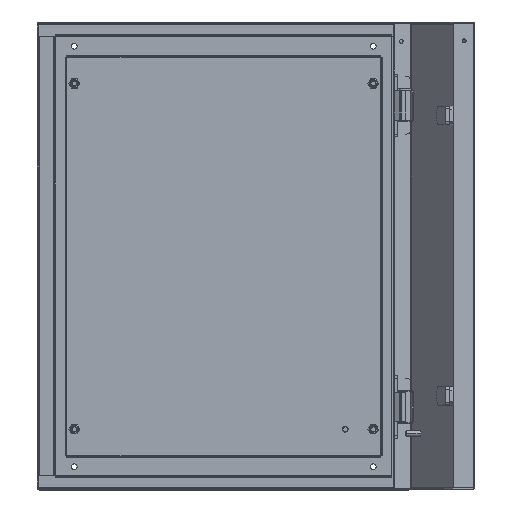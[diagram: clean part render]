
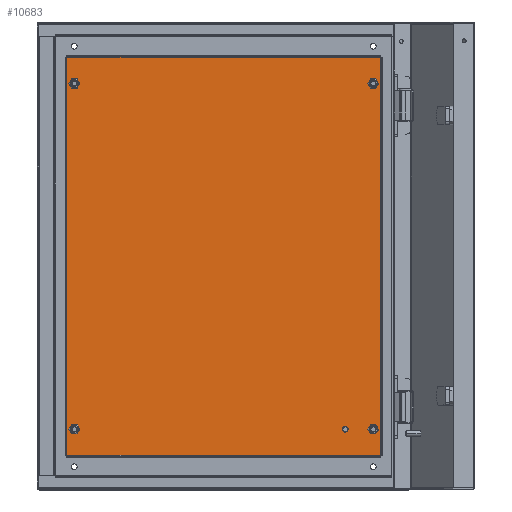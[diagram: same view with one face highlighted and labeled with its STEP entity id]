
A CAD part, top view. The second image highlights one B-rep face of the part: STEP entity #10683.
In plain terms, the highlighted planar face has unit normal (0, 0, 1).
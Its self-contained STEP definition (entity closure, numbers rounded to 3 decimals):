
#120 = CARTESIAN_POINT ( 'NONE',  ( 1.937, 428.063, 0. ) ) ;
#152 = DIRECTION ( 'NONE',  ( 0., 0., 1. ) ) ;
#196 = VERTEX_POINT ( 'NONE', #1925 ) ;
#285 = VECTOR ( 'NONE', #6019, 1000. ) ;
#574 = CIRCLE ( 'NONE', #2295, 3. ) ;
#814 = CIRCLE ( 'NONE', #6008, 4. ) ;
#896 = DIRECTION ( 'NONE',  ( 0., 0., 1. ) ) ;
#897 = DIRECTION ( 'NONE',  ( 0., 0., 1. ) ) ;
#957 = PLANE ( 'NONE',  #8624 ) ;
#1027 = VERTEX_POINT ( 'NONE', #4752 ) ;
#1081 = DIRECTION ( 'NONE',  ( 0., 0., -1. ) ) ;
#1171 = CARTESIAN_POINT ( 'NONE',  ( 10., 30., 0. ) ) ;
#1234 = CARTESIAN_POINT ( 'NONE',  ( 6., 400., 0. ) ) ;
#1259 = VERTEX_POINT ( 'NONE', #3445 ) ;
#1307 = AXIS2_PLACEMENT_3D ( 'NONE', #1171, #3029, #9080 ) ;
#1429 = ORIENTED_EDGE ( 'NONE', *, *, #12583, .T. ) ;
#1440 = DIRECTION ( 'NONE',  ( 0., 0., 1. ) ) ;
#1559 = ORIENTED_EDGE ( 'NONE', *, *, #11010, .T. ) ;
#1586 = VECTOR ( 'NONE', #11579, 1000. ) ;
#1604 = ORIENTED_EDGE ( 'NONE', *, *, #2319, .F. ) ;
#1908 = DIRECTION ( 'NONE',  ( 1., 0., 0. ) ) ;
#1925 = CARTESIAN_POINT ( 'NONE',  ( 334., 400., 0. ) ) ;
#1952 = ORIENTED_EDGE ( 'NONE', *, *, #8829, .F. ) ;
#1981 = DIRECTION ( 'NONE',  ( -1., 0., 0. ) ) ;
#2063 = FACE_BOUND ( 'NONE', #5309, .T. ) ;
#2084 = EDGE_CURVE ( 'NONE', #196, #4944, #8268, .T. ) ;
#2295 = AXIS2_PLACEMENT_3D ( 'NONE', #10002, #4198, #6091 ) ;
#2319 = EDGE_CURVE ( 'NONE', #5954, #8873, #814, .T. ) ;
#2412 = CARTESIAN_POINT ( 'NONE',  ( 14., 30., 0. ) ) ;
#2455 = EDGE_LOOP ( 'NONE', ( #9151, #1559, #6480, #1429 ) ) ;
#2652 = EDGE_CURVE ( 'NONE', #7992, #12677, #12765, .T. ) ;
#2903 = LINE ( 'NONE', #2977, #285 ) ;
#2946 = DIRECTION ( 'NONE',  ( -1., 0., 0. ) ) ;
#2977 = CARTESIAN_POINT ( 'NONE',  ( 1.937, 428.093, 0. ) ) ;
#3029 = DIRECTION ( 'NONE',  ( 0., 0., 1. ) ) ;
#3106 = EDGE_CURVE ( 'NONE', #4944, #196, #8387, .T. ) ;
#3151 = LINE ( 'NONE', #5983, #6709 ) ;
#3289 = CARTESIAN_POINT ( 'NONE',  ( 338.063, 1.907, 0. ) ) ;
#3445 = CARTESIAN_POINT ( 'NONE',  ( 303., 30., 0. ) ) ;
#3476 = CIRCLE ( 'NONE', #6846, 3. ) ;
#3549 = CIRCLE ( 'NONE', #1307, 4. ) ;
#3598 = ORIENTED_EDGE ( 'NONE', *, *, #2084, .F. ) ;
#3934 = DIRECTION ( 'NONE',  ( 0., 0., 1. ) ) ;
#4122 = FACE_OUTER_BOUND ( 'NONE', #2455, .T. ) ;
#4198 = DIRECTION ( 'NONE',  ( 0., 0., 1. ) ) ;
#4282 = VERTEX_POINT ( 'NONE', #10823 ) ;
#4371 = DIRECTION ( 'NONE',  ( 0., 0., 1. ) ) ;
#4387 = VECTOR ( 'NONE', #8259, 1000. ) ;
#4406 = CIRCLE ( 'NONE', #8330, 4. ) ;
#4434 = ORIENTED_EDGE ( 'NONE', *, *, #7838, .F. ) ;
#4623 = EDGE_LOOP ( 'NONE', ( #11870, #6747 ) ) ;
#4633 = CARTESIAN_POINT ( 'NONE',  ( 297., 30., 0. ) ) ;
#4752 = CARTESIAN_POINT ( 'NONE',  ( 1.937, 1.937, 0. ) ) ;
#4905 = EDGE_LOOP ( 'NONE', ( #1604, #8008 ) ) ;
#4944 = VERTEX_POINT ( 'NONE', #10033 ) ;
#5017 = DIRECTION ( 'NONE',  ( -1., 0., 0. ) ) ;
#5037 = CIRCLE ( 'NONE', #9711, 4. ) ;
#5252 = CARTESIAN_POINT ( 'NONE',  ( 10., 400., 0. ) ) ;
#5309 = EDGE_LOOP ( 'NONE', ( #1952, #7397 ) ) ;
#5315 = FACE_BOUND ( 'NONE', #5948, .T. ) ;
#5370 = CARTESIAN_POINT ( 'NONE',  ( 330., 30., 0. ) ) ;
#5615 = LINE ( 'NONE', #7331, #1586 ) ;
#5677 = DIRECTION ( 'NONE',  ( -1., 0., 0. ) ) ;
#5686 = DIRECTION ( 'NONE',  ( -1., 0., 0. ) ) ;
#5846 = VERTEX_POINT ( 'NONE', #2412 ) ;
#5930 = CARTESIAN_POINT ( 'NONE',  ( 330., 400., 0. ) ) ;
#5948 = EDGE_LOOP ( 'NONE', ( #3598, #7728 ) ) ;
#5954 = VERTEX_POINT ( 'NONE', #6802 ) ;
#5983 = CARTESIAN_POINT ( 'NONE',  ( 338.093, 428.063, 0. ) ) ;
#6008 = AXIS2_PLACEMENT_3D ( 'NONE', #5252, #1440, #11239 ) ;
#6019 = DIRECTION ( 'NONE',  ( 0., -1., 0. ) ) ;
#6091 = DIRECTION ( 'NONE',  ( -1., 0., 0. ) ) ;
#6232 = AXIS2_PLACEMENT_3D ( 'NONE', #5370, #8322, #7281 ) ;
#6356 = VERTEX_POINT ( 'NONE', #4633 ) ;
#6480 = ORIENTED_EDGE ( 'NONE', *, *, #2652, .T. ) ;
#6489 = EDGE_LOOP ( 'NONE', ( #4434, #9613 ) ) ;
#6565 = FACE_BOUND ( 'NONE', #6489, .T. ) ;
#6709 = VECTOR ( 'NONE', #2946, 1000. ) ;
#6747 = ORIENTED_EDGE ( 'NONE', *, *, #9942, .F. ) ;
#6802 = CARTESIAN_POINT ( 'NONE',  ( 14., 400., 0. ) ) ;
#6846 = AXIS2_PLACEMENT_3D ( 'NONE', #11609, #8662, #5677 ) ;
#7074 = DIRECTION ( 'NONE',  ( -1., 0., 0. ) ) ;
#7281 = DIRECTION ( 'NONE',  ( 1., 0., 0. ) ) ;
#7293 = VERTEX_POINT ( 'NONE', #120 ) ;
#7331 = CARTESIAN_POINT ( 'NONE',  ( 1.907, 1.937, 0. ) ) ;
#7368 = CARTESIAN_POINT ( 'NONE',  ( 326., 30., 0. ) ) ;
#7397 = ORIENTED_EDGE ( 'NONE', *, *, #12487, .F. ) ;
#7647 = CARTESIAN_POINT ( 'NONE',  ( 338.063, 1.937, 0. ) ) ;
#7728 = ORIENTED_EDGE ( 'NONE', *, *, #3106, .F. ) ;
#7838 = EDGE_CURVE ( 'NONE', #5846, #4282, #3549, .T. ) ;
#7893 = AXIS2_PLACEMENT_3D ( 'NONE', #9357, #4371, #8292 ) ;
#7992 = VERTEX_POINT ( 'NONE', #7647 ) ;
#8008 = ORIENTED_EDGE ( 'NONE', *, *, #12222, .F. ) ;
#8259 = DIRECTION ( 'NONE',  ( 0., 1., 0. ) ) ;
#8268 = CIRCLE ( 'NONE', #10366, 4. ) ;
#8292 = DIRECTION ( 'NONE',  ( 1., 0., 0. ) ) ;
#8294 = EDGE_CURVE ( 'NONE', #7293, #1027, #2903, .T. ) ;
#8322 = DIRECTION ( 'NONE',  ( 0., 0., 1. ) ) ;
#8330 = AXIS2_PLACEMENT_3D ( 'NONE', #10065, #152, #7074 ) ;
#8387 = CIRCLE ( 'NONE', #9888, 4. ) ;
#8624 = AXIS2_PLACEMENT_3D ( 'NONE', #9881, #1081, #5017 ) ;
#8662 = DIRECTION ( 'NONE',  ( 0., 0., 1. ) ) ;
#8829 = EDGE_CURVE ( 'NONE', #6356, #1259, #574, .T. ) ;
#8873 = VERTEX_POINT ( 'NONE', #1234 ) ;
#9080 = DIRECTION ( 'NONE',  ( -1., 0., 0. ) ) ;
#9151 = ORIENTED_EDGE ( 'NONE', *, *, #8294, .T. ) ;
#9226 = VERTEX_POINT ( 'NONE', #11792 ) ;
#9357 = CARTESIAN_POINT ( 'NONE',  ( 330., 30., 0. ) ) ;
#9613 = ORIENTED_EDGE ( 'NONE', *, *, #12715, .F. ) ;
#9711 = AXIS2_PLACEMENT_3D ( 'NONE', #12814, #896, #1908 ) ;
#9881 = CARTESIAN_POINT ( 'NONE',  ( 0., 0., 0. ) ) ;
#9888 = AXIS2_PLACEMENT_3D ( 'NONE', #5930, #3934, #1981 ) ;
#9942 = EDGE_CURVE ( 'NONE', #9985, #9226, #12635, .T. ) ;
#9953 = FACE_BOUND ( 'NONE', #4905, .T. ) ;
#9985 = VERTEX_POINT ( 'NONE', #7368 ) ;
#10002 = CARTESIAN_POINT ( 'NONE',  ( 300., 30., 0. ) ) ;
#10033 = CARTESIAN_POINT ( 'NONE',  ( 326., 400., 0. ) ) ;
#10065 = CARTESIAN_POINT ( 'NONE',  ( 10., 30., 0. ) ) ;
#10366 = AXIS2_PLACEMENT_3D ( 'NONE', #11621, #897, #5686 ) ;
#10683 = ADVANCED_FACE ( 'NONE', ( #2063, #6565, #12000, #5315, #9953, #4122 ), #957, .F. ) ;
#10744 = CIRCLE ( 'NONE', #7893, 4. ) ;
#10823 = CARTESIAN_POINT ( 'NONE',  ( 6., 30., 0. ) ) ;
#10830 = CARTESIAN_POINT ( 'NONE',  ( 338.063, 428.063, 0. ) ) ;
#10972 = EDGE_CURVE ( 'NONE', #9226, #9985, #10744, .T. ) ;
#11010 = EDGE_CURVE ( 'NONE', #1027, #7992, #5615, .T. ) ;
#11239 = DIRECTION ( 'NONE',  ( 1., 0., 0. ) ) ;
#11579 = DIRECTION ( 'NONE',  ( 1., 0., 0. ) ) ;
#11609 = CARTESIAN_POINT ( 'NONE',  ( 300., 30., 0. ) ) ;
#11621 = CARTESIAN_POINT ( 'NONE',  ( 330., 400., 0. ) ) ;
#11792 = CARTESIAN_POINT ( 'NONE',  ( 334., 30., 0. ) ) ;
#11870 = ORIENTED_EDGE ( 'NONE', *, *, #10972, .F. ) ;
#12000 = FACE_BOUND ( 'NONE', #4623, .T. ) ;
#12222 = EDGE_CURVE ( 'NONE', #8873, #5954, #5037, .T. ) ;
#12487 = EDGE_CURVE ( 'NONE', #1259, #6356, #3476, .T. ) ;
#12583 = EDGE_CURVE ( 'NONE', #12677, #7293, #3151, .T. ) ;
#12635 = CIRCLE ( 'NONE', #6232, 4. ) ;
#12677 = VERTEX_POINT ( 'NONE', #10830 ) ;
#12715 = EDGE_CURVE ( 'NONE', #4282, #5846, #4406, .T. ) ;
#12765 = LINE ( 'NONE', #3289, #4387 ) ;
#12814 = CARTESIAN_POINT ( 'NONE',  ( 10., 400., 0. ) ) ;
